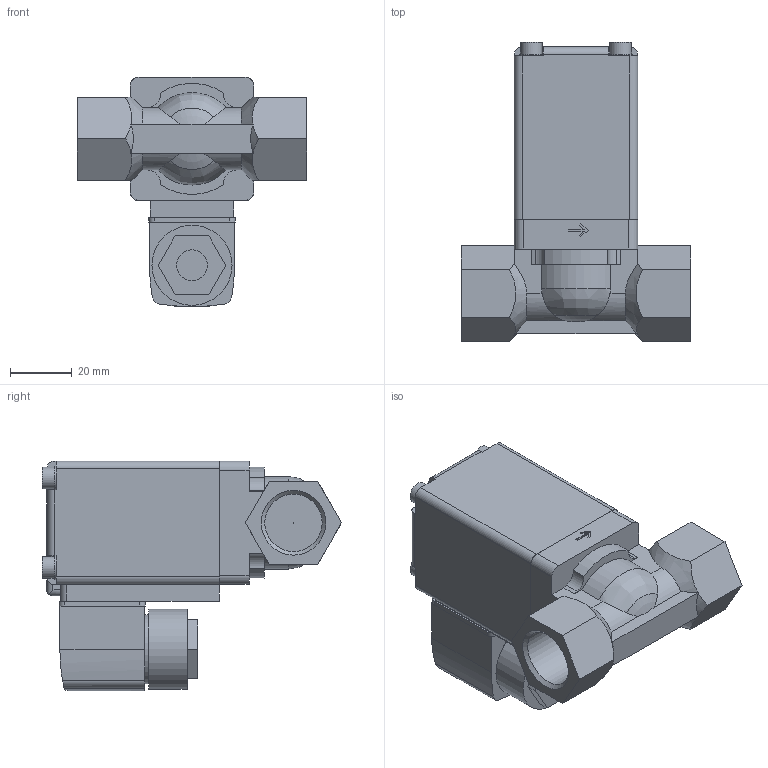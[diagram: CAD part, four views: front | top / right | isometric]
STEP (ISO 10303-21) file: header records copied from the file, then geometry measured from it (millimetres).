
FILE_DESCRIPTION( ( 'STEP AP214' ), '1' );
FILE_NAME( 'p:/temp/worker_19/temp/app_54_02018110106532321740847192d056f_000000_00_00_000000/format_0/0290-043553-Servo-assisted__2_2_way_diaphragm_valve.stp', '2018-11-01T05:53:24', ( '' ), ( '' ), ' ', 'PARTsolutions', ' ' );
FILE_SCHEMA( ( 'AUTOMOTIVE_DESIGN { 1 0 10303 214 1 1 1 1 }' ) );
Length unit declared in the file: millimetre
Products named in the file (3): 0290-043553-Servo-assisted  2/2 way diaphragm valve; HI_0290d-12VA2/2-way Solenoid Valve_cover; HI_0290g-12VA2/2-way Solenoid Valve_cover
Assembly tree (2 placements, depth 2):
  0290-043553-Servo-assisted  2/2 way diaphragm valve
    HI_0290d-12VA2/2-way Solenoid Valve_cover
    HI_0290g-12VA2/2-way Solenoid Valve_cover
Bounding box: 74.5 x 96.99 x 74.5 mm (x, y, z)
Volume: 178595.2 mm3; surface area: 30792.4 mm2
Topology: 2 solids, 2 shells, 202 faces, 545 edges, 359 vertices
Faces by surface type: plane 129, cylinder 61, cone 8, sphere 2, bspline 2
Full cylindrical faces by diameter (mm): 0.2 x1, 7 x4, 10 x1, 18.631 x2, 22.5 x1, 26 x1
Entity records: 8216 total; most frequent: CARTESIAN_POINT 1517, ORIENTED_EDGE 1058, DIRECTION 1018, EDGE_CURVE 529, VERTEX_POINT 355, LINE 346, VECTOR 346, AXIS2_PLACEMENT_3D 336
